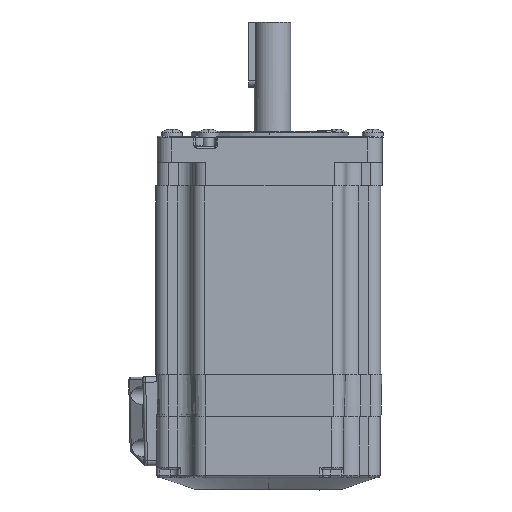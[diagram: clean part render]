
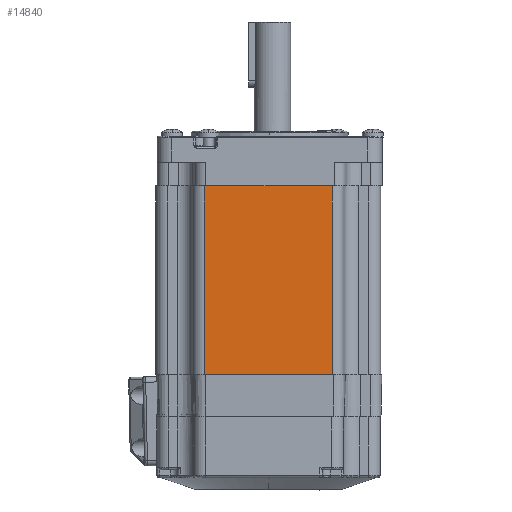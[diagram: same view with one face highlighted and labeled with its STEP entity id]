
A CAD part, left-side view. The second image highlights one B-rep face of the part: STEP entity #14840.
In plain terms, the highlighted planar face has unit normal (-1, 0, 0).
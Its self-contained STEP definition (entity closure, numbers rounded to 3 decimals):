
#860 = AXIS2_PLACEMENT_3D ( 'NONE', #21917, #21918, #21919 ) ;
#1531 = VERTEX_POINT ( 'NONE', #2055 ) ;
#1533 = VERTEX_POINT ( 'NONE', #2056 ) ;
#1550 = VERTEX_POINT ( 'NONE', #2065 ) ;
#1552 = VERTEX_POINT ( 'NONE', #2066 ) ;
#2055 = CARTESIAN_POINT ( 'NONE',  ( -43., 24.5, 0. ) ) ;
#2056 = CARTESIAN_POINT ( 'NONE',  ( -43., -24.5, 0. ) ) ;
#2065 = CARTESIAN_POINT ( 'NONE',  ( -43., 24.5, -72. ) ) ;
#2066 = CARTESIAN_POINT ( 'NONE',  ( -43., -24.5, -72. ) ) ;
#3729 = EDGE_LOOP ( 'NONE', ( #45257, #45259, #45258, #45260 ) ) ;
#14840 = ADVANCED_FACE ( 'NONE', ( #22691 ), #21916, .T. ) ;
#21916 = PLANE ( 'NONE',  #860 ) ;
#21917 = CARTESIAN_POINT ( 'NONE',  ( -43., -24.5, -45. ) ) ;
#21918 = DIRECTION ( 'NONE',  ( -1., 0., 0. ) ) ;
#21919 = DIRECTION ( 'NONE',  ( 0., 0., 1. ) ) ;
#22691 = FACE_OUTER_BOUND ( 'NONE', #3729, .T. ) ;
#27108 = LINE ( 'NONE', #31686, #29986 ) ;
#27117 = LINE ( 'NONE', #31711, #30001 ) ;
#27118 = LINE ( 'NONE', #31713, #30002 ) ;
#27119 = LINE ( 'NONE', #31715, #30003 ) ;
#29986 = VECTOR ( 'NONE', #31687, 1000. ) ;
#30001 = VECTOR ( 'NONE', #31712, 1000. ) ;
#30002 = VECTOR ( 'NONE', #31714, 1000. ) ;
#30003 = VECTOR ( 'NONE', #31716, 1000. ) ;
#31686 = CARTESIAN_POINT ( 'NONE',  ( -43., -24.5, 0. ) ) ;
#31687 = DIRECTION ( 'NONE',  ( 0., 1., 0. ) ) ;
#31711 = CARTESIAN_POINT ( 'NONE',  ( -43., -24.5, -72. ) ) ;
#31712 = DIRECTION ( 'NONE',  ( 0., 1., 0. ) ) ;
#31713 = CARTESIAN_POINT ( 'NONE',  ( -43., 24.5, -45. ) ) ;
#31714 = DIRECTION ( 'NONE',  ( 0., 0., -1. ) ) ;
#31715 = CARTESIAN_POINT ( 'NONE',  ( -43., -24.5, 0. ) ) ;
#31716 = DIRECTION ( 'NONE',  ( 0., 0., 1. ) ) ;
#45257 = ORIENTED_EDGE ( 'NONE', *, *, #45451, .T. ) ;
#45258 = ORIENTED_EDGE ( 'NONE', *, *, #45452, .T. ) ;
#45259 = ORIENTED_EDGE ( 'NONE', *, *, #45450, .F. ) ;
#45260 = ORIENTED_EDGE ( 'NONE', *, *, #45440, .T. ) ;
#45440 = EDGE_CURVE ( 'NONE', #1533, #1531, #27108, .T. ) ;
#45450 = EDGE_CURVE ( 'NONE', #1552, #1550, #27117, .T. ) ;
#45451 = EDGE_CURVE ( 'NONE', #1531, #1550, #27118, .T. ) ;
#45452 = EDGE_CURVE ( 'NONE', #1552, #1533, #27119, .T. ) ;
